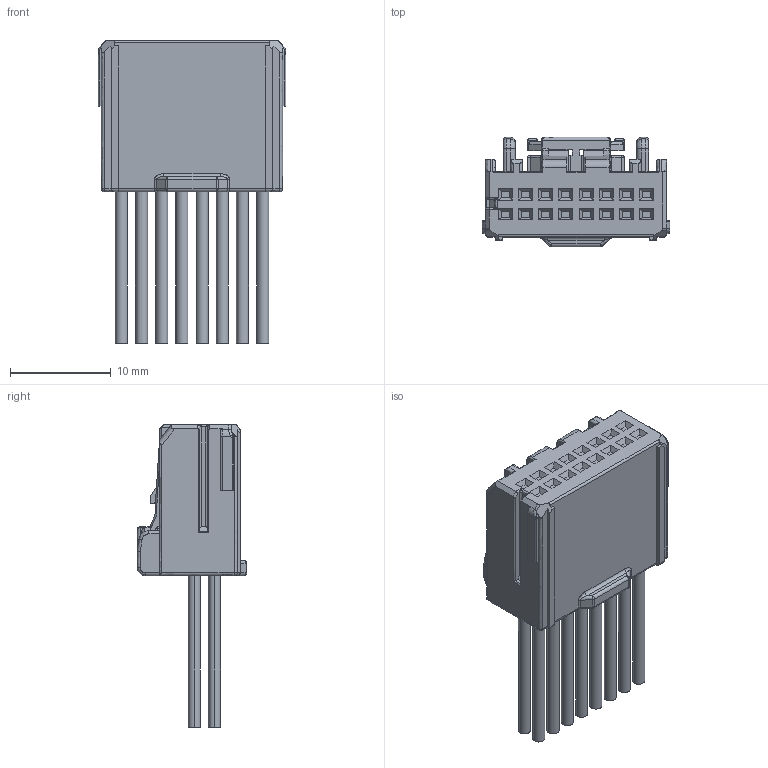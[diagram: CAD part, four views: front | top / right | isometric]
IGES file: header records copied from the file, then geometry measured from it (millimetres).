
Start section: SolidWorks IGES file using analytic representation for surfaces
Global section: file name: C:\Users\08803\Desktop\PDM\ISH全シリーズモデル(STEP)2017.2.6時点\水平\2列\16P\ISHV\ISHV 16P FEMALE CONNECTOR.IGS; native system: SolidWorks 2017; preprocessor: SolidWorks 2017; author: 08803; date: 180821.142836; units: millimetre
Bounding box: 18.6 x 10.85 x 29.95 mm (x, y, z)
Surface area: 2373.7 mm2 (no closed solid volume)
Topology: 0 solids, 0 shells, 623 faces, 4332 edges, 4321 vertices
Faces by surface type: bspline 424, revolution 199
